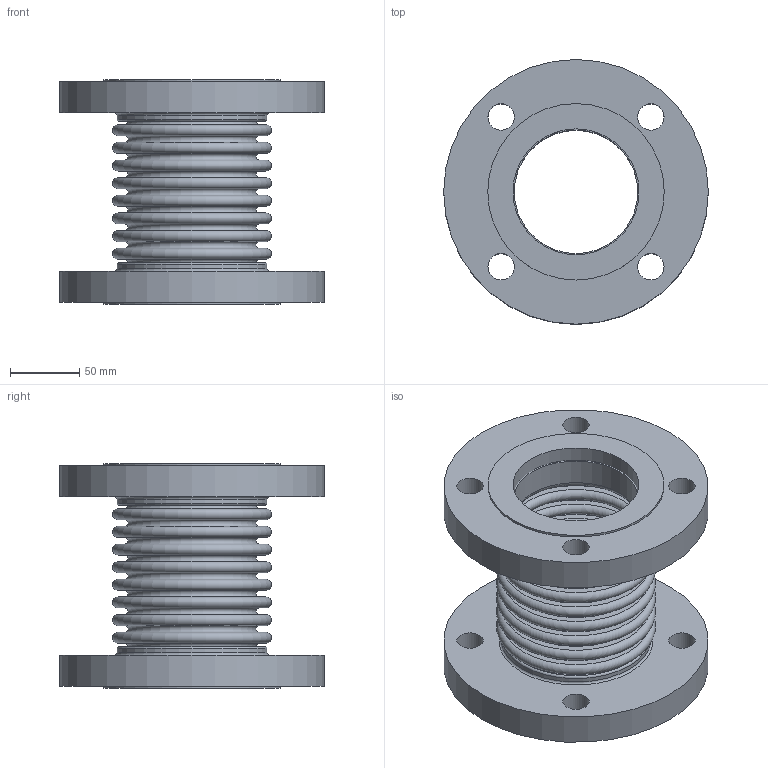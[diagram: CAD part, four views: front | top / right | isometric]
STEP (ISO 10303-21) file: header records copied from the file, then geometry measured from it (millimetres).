
FILE_DESCRIPTION(/* description */ ('EXPANSION JOINT,SINGLE, FLANGED ENDS,3 INCH NOMINAL','CAx-IF Rec.Pracs.---Representation and Presentation of Product Manufacturing Information (PMI)---4.0---2014-10-13'),/* implementation_level */ '2;1');
FILE_NAME(/* name */ 'US-03-8-300S-FLANGED ENDS.stp',/* time_stamp */ '2026-07-31T16:47:48-05:00',/* author */ ('Guadalupe'),/* organization */ (''),/* preprocessor_version */ 'ST-DEVELOPER v20.1',/* originating_system */ 'Autodesk Inventor 2026',/* authorisation */ '');
FILE_SCHEMA (('AP242_MANAGED_MODEL_BASED_3D_ENGINEERING_MIM_LF { 1 0 10303 442 2 1 4 }'));
Length unit declared in the file: inch
Products named in the file (3): 03-300S; 03-300S-02; 03-300S-01
Assembly tree (3 placements, depth 2):
  03-300S
    03-300S-02  x2
    03-300S-01
Bounding box: 190.5 x 190.5 x 161.54 mm (x, y, z)
Volume: 1117974.7 mm3; surface area: 318029.1 mm2
Topology: 5 solids, 5 shells, 104 faces, 174 edges, 116 vertices
Faces by surface type: plane 46, torus 38, cylinder 20
Full cylindrical faces by diameter (mm): 19.05 x8, 88.9 x2, 90.678 x2, 91.948 x2, 107.95 x2, 127 x2, 190.5 x2
Entity records: 2402 total; most frequent: DIRECTION 494, CARTESIAN_POINT 353, ORIENTED_EDGE 288, AXIS2_PLACEMENT_3D 241, EDGE_CURVE 144, EDGE_LOOP 140, CIRCLE 132, VERTEX_POINT 96
